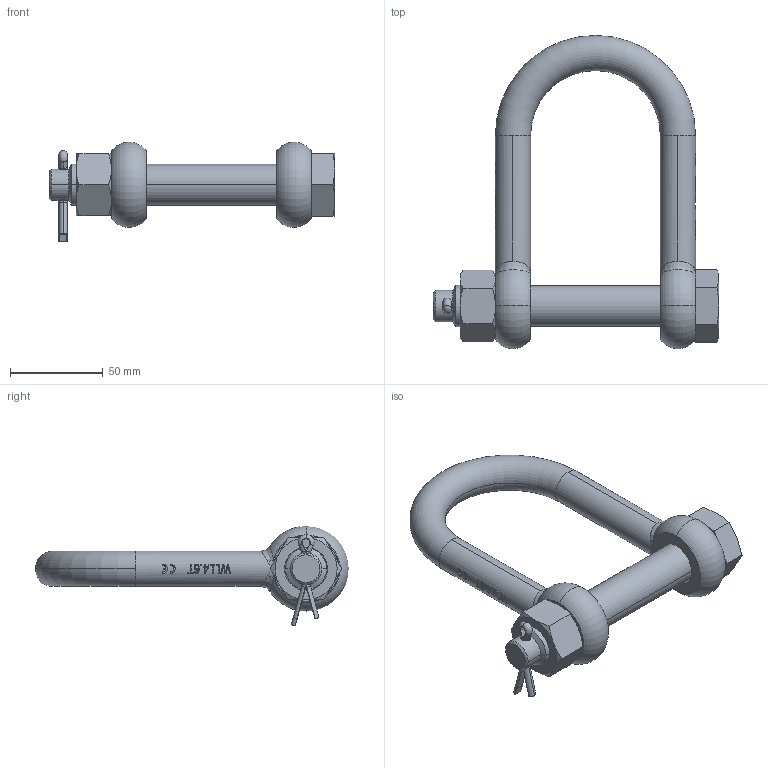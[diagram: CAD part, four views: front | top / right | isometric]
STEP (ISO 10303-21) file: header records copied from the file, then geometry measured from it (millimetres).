
FILE_DESCRIPTION(('STEP AP203'),'1');
FILE_NAME('ldgdmb19.stp','2023-08-02T08:35:52',('TraceParts'),('TraceParts S.A.'),'Spatial InterOp 3D',' ',' ');
FILE_SCHEMA(('CONFIG_CONTROL_DESIGN'));
Length unit declared in the file: millimetre
Products named in the file (1): 1
Bounding box: 154 x 168.96 x 53.71 mm (x, y, z)
Volume: 194671 mm3; surface area: 46691.7 mm2
Topology: 4 solids, 4 shells, 559 faces, 1417 edges, 891 vertices
Faces by surface type: plane 259, bspline 127, cylinder 97, torus 44, cone 32
Entity records: 23484 total; most frequent: CARTESIAN_POINT 10916, ORIENTED_EDGE 2802, DIRECTION 2235, EDGE_CURVE 1401, VERTEX_POINT 891, LINE 755, VECTOR 755, AXIS2_PLACEMENT_3D 740
